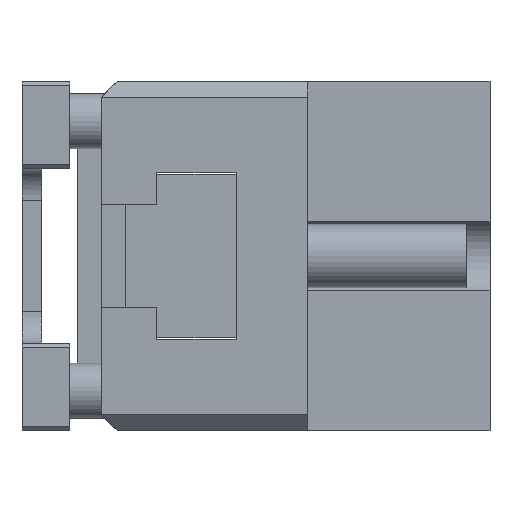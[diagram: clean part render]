
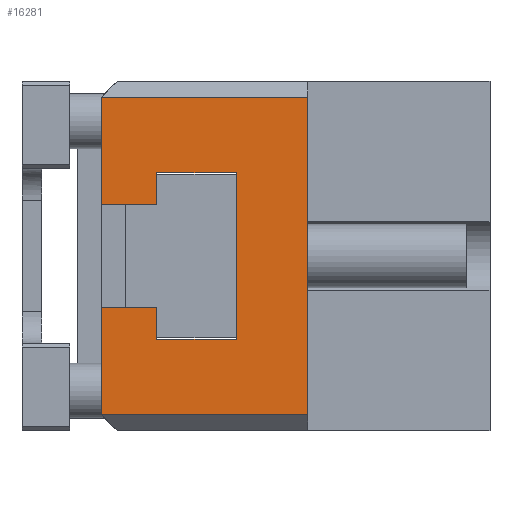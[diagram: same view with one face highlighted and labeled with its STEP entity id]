
A CAD part, left-side view. The second image highlights one B-rep face of the part: STEP entity #16281.
In plain terms, the highlighted planar face has unit normal (-1, 0, 0).
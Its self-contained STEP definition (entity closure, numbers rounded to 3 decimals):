
#598 = DIRECTION ( 'NONE',  ( 0., -1., 0. ) ) ;
#955 = VECTOR ( 'NONE', #32688, 1000. ) ;
#1255 = VERTEX_POINT ( 'NONE', #45708 ) ;
#1266 = VERTEX_POINT ( 'NONE', #33695 ) ;
#1487 = VECTOR ( 'NONE', #3777, 1000. ) ;
#1976 = ORIENTED_EDGE ( 'NONE', *, *, #51218, .F. ) ;
#2129 = CARTESIAN_POINT ( 'NONE',  ( -40., 49., 6.5 ) ) ;
#3063 = ORIENTED_EDGE ( 'NONE', *, *, #35912, .T. ) ;
#3371 = CARTESIAN_POINT ( 'NONE',  ( -40., 42., -10.5 ) ) ;
#3750 = PLANE ( 'NONE',  #17576 ) ;
#3777 = DIRECTION ( 'NONE',  ( 0., -1., 0. ) ) ;
#3795 = CARTESIAN_POINT ( 'NONE',  ( -40., 42., 22. ) ) ;
#4379 = VERTEX_POINT ( 'NONE', #19767 ) ;
#5752 = VECTOR ( 'NONE', #598, 1000. ) ;
#6563 = LINE ( 'NONE', #23943, #37154 ) ;
#7692 = DIRECTION ( 'NONE',  ( 1., 0., 0. ) ) ;
#9164 = CARTESIAN_POINT ( 'NONE',  ( -40., 42., 10.5 ) ) ;
#9527 = DIRECTION ( 'NONE',  ( 0., 1., 0. ) ) ;
#10025 = EDGE_CURVE ( 'NONE', #14375, #17743, #51081, .T. ) ;
#10218 = CARTESIAN_POINT ( 'NONE',  ( -40., 23., 20. ) ) ;
#10270 = ORIENTED_EDGE ( 'NONE', *, *, #22732, .F. ) ;
#11712 = LINE ( 'NONE', #2129, #21071 ) ;
#11731 = DIRECTION ( 'NONE',  ( 0., 1., 0. ) ) ;
#12344 = EDGE_CURVE ( 'NONE', #50379, #25353, #11712, .T. ) ;
#12346 = CARTESIAN_POINT ( 'NONE',  ( -40., 49., -10.5 ) ) ;
#12611 = DIRECTION ( 'NONE',  ( 0., 0., -1. ) ) ;
#12960 = CARTESIAN_POINT ( 'NONE',  ( -40., 23., 22. ) ) ;
#13181 = ORIENTED_EDGE ( 'NONE', *, *, #20009, .T. ) ;
#13657 = EDGE_CURVE ( 'NONE', #25353, #1255, #44090, .T. ) ;
#14375 = VERTEX_POINT ( 'NONE', #46258 ) ;
#15938 = CARTESIAN_POINT ( 'NONE',  ( -40., 49., -20. ) ) ;
#16048 = VECTOR ( 'NONE', #27256, 1000. ) ;
#16086 = CARTESIAN_POINT ( 'NONE',  ( -40., 49., 6.5 ) ) ;
#16281 = ADVANCED_FACE ( 'NONE', ( #40849 ), #3750, .F. ) ;
#16343 = LINE ( 'NONE', #12346, #5752 ) ;
#17057 = LINE ( 'NONE', #12960, #955 ) ;
#17576 = AXIS2_PLACEMENT_3D ( 'NONE', #31576, #7692, #35586 ) ;
#17743 = VERTEX_POINT ( 'NONE', #3371 ) ;
#18044 = VECTOR ( 'NONE', #12611, 1000. ) ;
#18045 = DIRECTION ( 'NONE',  ( 0., 1., 0. ) ) ;
#19767 = CARTESIAN_POINT ( 'NONE',  ( -40., 32., 10.5 ) ) ;
#20009 = EDGE_CURVE ( 'NONE', #28280, #35030, #17057, .T. ) ;
#20151 = CARTESIAN_POINT ( 'NONE',  ( -40., 32., 22. ) ) ;
#21071 = VECTOR ( 'NONE', #18045, 1000. ) ;
#21896 = EDGE_CURVE ( 'NONE', #17743, #1266, #16343, .T. ) ;
#22732 = EDGE_CURVE ( 'NONE', #1266, #4379, #23790, .T. ) ;
#22923 = VECTOR ( 'NONE', #44987, 1000. ) ;
#23247 = CARTESIAN_POINT ( 'NONE',  ( -40., 49., 20. ) ) ;
#23790 = LINE ( 'NONE', #20151, #43743 ) ;
#23916 = ORIENTED_EDGE ( 'NONE', *, *, #25300, .F. ) ;
#23943 = CARTESIAN_POINT ( 'NONE',  ( -40., 49., -20. ) ) ;
#24654 = CARTESIAN_POINT ( 'NONE',  ( -40., 42., 22. ) ) ;
#25300 = EDGE_CURVE ( 'NONE', #28280, #43573, #6563, .T. ) ;
#25353 = VERTEX_POINT ( 'NONE', #16086 ) ;
#26488 = EDGE_CURVE ( 'NONE', #4379, #49825, #28339, .T. ) ;
#26519 = ORIENTED_EDGE ( 'NONE', *, *, #10025, .F. ) ;
#26624 = LINE ( 'NONE', #23247, #16048 ) ;
#26894 = ORIENTED_EDGE ( 'NONE', *, *, #36775, .F. ) ;
#27116 = ORIENTED_EDGE ( 'NONE', *, *, #26488, .F. ) ;
#27256 = DIRECTION ( 'NONE',  ( 0., -1., 0. ) ) ;
#27421 = LINE ( 'NONE', #3795, #35551 ) ;
#27596 = CARTESIAN_POINT ( 'NONE',  ( -40., 49., -6.5 ) ) ;
#27780 = CARTESIAN_POINT ( 'NONE',  ( -40., 23., -20. ) ) ;
#28280 = VERTEX_POINT ( 'NONE', #27780 ) ;
#28339 = LINE ( 'NONE', #49258, #36458 ) ;
#28960 = CARTESIAN_POINT ( 'NONE',  ( -40., 49., 22. ) ) ;
#31576 = CARTESIAN_POINT ( 'NONE',  ( -40., 49., 22. ) ) ;
#31649 = EDGE_CURVE ( 'NONE', #49825, #50379, #27421, .T. ) ;
#32025 = DIRECTION ( 'NONE',  ( 0., 0., 1. ) ) ;
#32688 = DIRECTION ( 'NONE',  ( 0., 0., 1. ) ) ;
#33469 = VECTOR ( 'NONE', #49514, 1000. ) ;
#33546 = LINE ( 'NONE', #28960, #22923 ) ;
#33695 = CARTESIAN_POINT ( 'NONE',  ( -40., 32., -10.5 ) ) ;
#35030 = VERTEX_POINT ( 'NONE', #10218 ) ;
#35551 = VECTOR ( 'NONE', #51455, 1000. ) ;
#35586 = DIRECTION ( 'NONE',  ( 0., 0., -1. ) ) ;
#35912 = EDGE_CURVE ( 'NONE', #36956, #43573, #33546, .T. ) ;
#36458 = VECTOR ( 'NONE', #9527, 1000. ) ;
#36775 = EDGE_CURVE ( 'NONE', #1255, #35030, #26624, .T. ) ;
#36956 = VERTEX_POINT ( 'NONE', #48523 ) ;
#37154 = VECTOR ( 'NONE', #11731, 1000. ) ;
#38331 = CARTESIAN_POINT ( 'NONE',  ( -40., 42., 6.5 ) ) ;
#39034 = ORIENTED_EDGE ( 'NONE', *, *, #12344, .F. ) ;
#39202 = ORIENTED_EDGE ( 'NONE', *, *, #13657, .F. ) ;
#40849 = FACE_OUTER_BOUND ( 'NONE', #50624, .T. ) ;
#43573 = VERTEX_POINT ( 'NONE', #15938 ) ;
#43743 = VECTOR ( 'NONE', #32025, 1000. ) ;
#44090 = LINE ( 'NONE', #49670, #33469 ) ;
#44987 = DIRECTION ( 'NONE',  ( 0., 0., -1. ) ) ;
#45708 = CARTESIAN_POINT ( 'NONE',  ( -40., 49., 20. ) ) ;
#46258 = CARTESIAN_POINT ( 'NONE',  ( -40., 42., -6.5 ) ) ;
#48301 = ORIENTED_EDGE ( 'NONE', *, *, #21896, .F. ) ;
#48523 = CARTESIAN_POINT ( 'NONE',  ( -40., 49., -6.5 ) ) ;
#49258 = CARTESIAN_POINT ( 'NONE',  ( -40., 49., 10.5 ) ) ;
#49514 = DIRECTION ( 'NONE',  ( 0., 0., 1. ) ) ;
#49670 = CARTESIAN_POINT ( 'NONE',  ( -40., 49., 22. ) ) ;
#49825 = VERTEX_POINT ( 'NONE', #9164 ) ;
#50379 = VERTEX_POINT ( 'NONE', #38331 ) ;
#50544 = ORIENTED_EDGE ( 'NONE', *, *, #31649, .F. ) ;
#50570 = LINE ( 'NONE', #27596, #1487 ) ;
#50624 = EDGE_LOOP ( 'NONE', ( #1976, #3063, #23916, #13181, #26894, #39202, #39034, #50544, #27116, #10270, #48301, #26519 ) ) ;
#51081 = LINE ( 'NONE', #24654, #18044 ) ;
#51218 = EDGE_CURVE ( 'NONE', #36956, #14375, #50570, .T. ) ;
#51455 = DIRECTION ( 'NONE',  ( 0., 0., -1. ) ) ;
